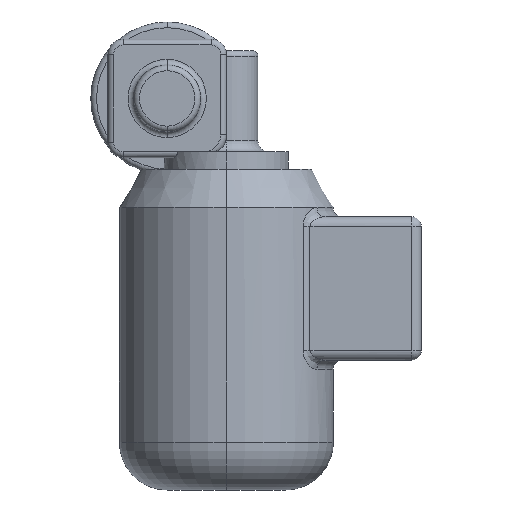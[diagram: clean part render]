
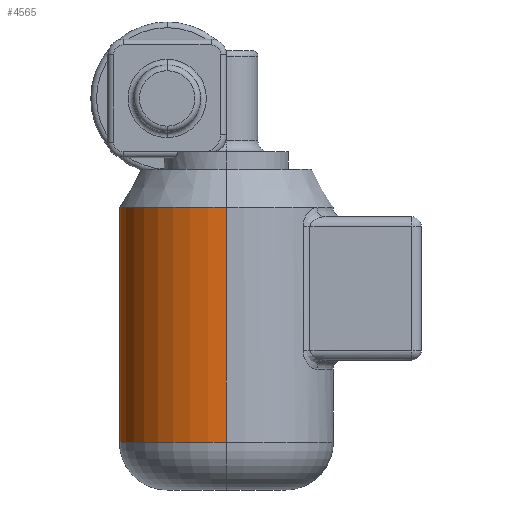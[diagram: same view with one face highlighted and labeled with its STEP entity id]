
A CAD part, left-side view. The second image highlights one B-rep face of the part: STEP entity #4565.
In plain terms, the highlighted cylindrical face has radius 56 mm (diameter 112 mm), a partial arc.
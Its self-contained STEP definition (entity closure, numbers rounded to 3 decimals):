
#900 = DIRECTION ( 'NONE',  ( 0., -1., 0. ) ) ;
#901 = DIRECTION ( 'NONE',  ( 0., 0., -1. ) ) ;
#902 = CARTESIAN_POINT ( 'NONE',  ( 0., 1.107, -20. ) ) ;
#903 = AXIS2_PLACEMENT_3D ( 'NONE', #902, #901, #900 ) ;
#904 = CIRCLE ( 'NONE', #903, 56. ) ;
#905 = DIRECTION ( 'NONE',  ( 0., 0., 1. ) ) ;
#906 = VECTOR ( 'NONE', #905, 1000. ) ;
#907 = CARTESIAN_POINT ( 'NONE',  ( 0., -54.893, -168. ) ) ;
#908 = LINE ( 'NONE', #907, #906 ) ;
#909 = DIRECTION ( 'NONE',  ( 0., -1., 0. ) ) ;
#910 = DIRECTION ( 'NONE',  ( 0., 0., 1. ) ) ;
#911 = CARTESIAN_POINT ( 'NONE',  ( 0., 1.107, -143. ) ) ;
#912 = AXIS2_PLACEMENT_3D ( 'NONE', #911, #910, #909 ) ;
#913 = DIRECTION ( 'NONE',  ( 0., -1., 0. ) ) ;
#914 = DIRECTION ( 'NONE',  ( 0., 0., 1. ) ) ;
#915 = CARTESIAN_POINT ( 'NONE',  ( 0., 1.107, -168. ) ) ;
#916 = AXIS2_PLACEMENT_3D ( 'NONE', #915, #914, #913 ) ;
#917 = CIRCLE ( 'NONE', #912, 56. ) ;
#918 = CYLINDRICAL_SURFACE ( 'NONE', #916, 56. ) ;
#919 = FACE_OUTER_BOUND ( 'NONE', #4564, .T. ) ;
#1130 = CARTESIAN_POINT ( 'NONE',  ( 0., -54.893, -143. ) ) ;
#1184 = DIRECTION ( 'NONE',  ( 0., 0., 1. ) ) ;
#1185 = VECTOR ( 'NONE', #1184, 1000. ) ;
#1186 = CARTESIAN_POINT ( 'NONE',  ( 0., 57.107, -168. ) ) ;
#1187 = LINE ( 'NONE', #1186, #1185 ) ;
#1430 = CARTESIAN_POINT ( 'NONE',  ( 0., 57.107, -20. ) ) ;
#1437 = CARTESIAN_POINT ( 'NONE',  ( 0., -54.893, -20. ) ) ;
#1458 = CARTESIAN_POINT ( 'NONE',  ( 0., 57.107, -143. ) ) ;
#4564 = EDGE_LOOP ( 'NONE', ( #4570, #4566, #4568, #4571 ) ) ;
#4565 = ADVANCED_FACE ( 'NONE', ( #919 ), #918, .T. ) ;
#4566 = ORIENTED_EDGE ( 'NONE', *, *, #4567, .T. ) ;
#4567 = EDGE_CURVE ( 'NONE', #4752, #4676, #917, .T. ) ;
#4568 = ORIENTED_EDGE ( 'NONE', *, *, #4569, .T. ) ;
#4569 = EDGE_CURVE ( 'NONE', #4676, #4738, #908, .T. ) ;
#4570 = ORIENTED_EDGE ( 'NONE', *, *, #4681, .F. ) ;
#4571 = ORIENTED_EDGE ( 'NONE', *, *, #4572, .T. ) ;
#4572 = EDGE_CURVE ( 'NONE', #4738, #4743, #904, .T. ) ;
#4676 = VERTEX_POINT ( 'NONE', #1130 ) ;
#4681 = EDGE_CURVE ( 'NONE', #4752, #4743, #1187, .T. ) ;
#4738 = VERTEX_POINT ( 'NONE', #1437 ) ;
#4743 = VERTEX_POINT ( 'NONE', #1430 ) ;
#4752 = VERTEX_POINT ( 'NONE', #1458 ) ;
